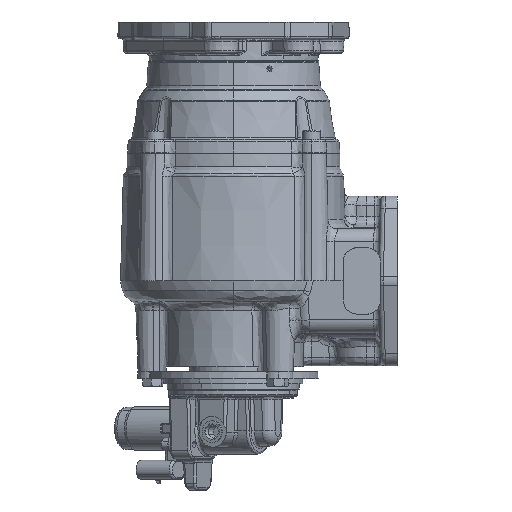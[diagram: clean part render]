
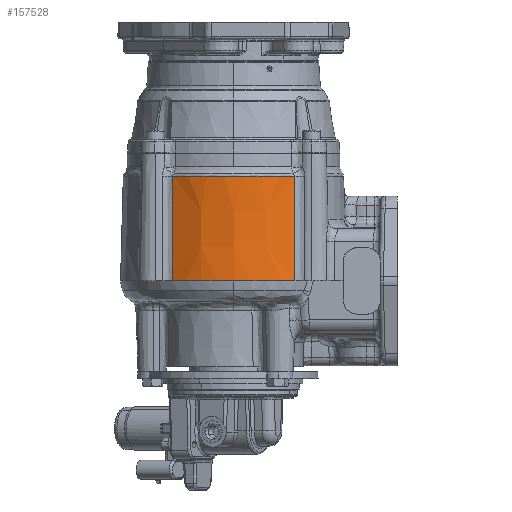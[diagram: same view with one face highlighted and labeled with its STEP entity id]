
A CAD part, left-side view. The second image highlights one B-rep face of the part: STEP entity #157528.
In plain terms, the highlighted conical face has half-angle 1.5 degrees and reference radius 76.073 mm.
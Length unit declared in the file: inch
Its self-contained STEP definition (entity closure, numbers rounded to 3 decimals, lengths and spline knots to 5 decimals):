
#1307 = CONICAL_SURFACE ( 'NONE', #92911, 2.995, 0.026 ) ;
#2171 = VERTEX_POINT ( 'NONE', #13450 ) ;
#2442 = CARTESIAN_POINT ( 'NONE',  ( -3.45445, 5.14477, 0.96049 ) ) ;
#2540 = CARTESIAN_POINT ( 'NONE',  ( -3.9635, 3.51989, 0. ) ) ;
#3430 = CARTESIAN_POINT ( 'NONE',  ( -3.48267, 5.14745, 0. ) ) ;
#6123 = ORIENTED_EDGE ( 'NONE', *, *, #29790, .F. ) ;
#8642 = CARTESIAN_POINT ( 'NONE',  ( -0.9685, 3.51989, 0. ) ) ;
#13450 = CARTESIAN_POINT ( 'NONE',  ( -3.48267, 1.89232, 0. ) ) ;
#14859 = VERTEX_POINT ( 'NONE', #116985 ) ;
#27615 = DIRECTION ( 'NONE',  ( 1., 0., 0. ) ) ;
#28605 = CIRCLE ( 'NONE', #175981, 2.92225 ) ;
#28880 = EDGE_CURVE ( 'NONE', #14859, #84225, #28605, .T. ) ;
#29790 = EDGE_CURVE ( 'NONE', #2171, #127530, #130158, .T. ) ;
#44545 = CARTESIAN_POINT ( 'NONE',  ( -3.48267, 5.14745, 0. ) ) ;
#54090 = EDGE_CURVE ( 'NONE', #2171, #14859, #75338, .T. ) ;
#54779 = DIRECTION ( 'NONE',  ( 0., 1., 0. ) ) ;
#55549 = B_SPLINE_CURVE_WITH_KNOTS ( 'NONE', 3,
 ( #95683, #142868, #2442, #3430 ),
 .UNSPECIFIED., .F., .F.,
 ( 4, 4 ),
 ( 0., 1. ),
 .UNSPECIFIED. ) ;
#55923 = CARTESIAN_POINT ( 'NONE',  ( -3.45445, 1.89501, 0.96047 ) ) ;
#56352 = DIRECTION ( 'NONE',  ( 0., 0., -1. ) ) ;
#58945 = CARTESIAN_POINT ( 'NONE',  ( -3.42697, 1.89734, 1.88656 ) ) ;
#66270 = CARTESIAN_POINT ( 'NONE',  ( -0.9685, 3.51989, 2.77827 ) ) ;
#67099 = FACE_OUTER_BOUND ( 'NONE', #179526, .T. ) ;
#71168 = ORIENTED_EDGE ( 'NONE', *, *, #54090, .T. ) ;
#75338 = B_SPLINE_CURVE_WITH_KNOTS ( 'NONE', 3,
 ( #196413, #55923, #58945, #118474 ),
 .UNSPECIFIED., .F., .F.,
 ( 4, 4 ),
 ( 0., 1. ),
 .UNSPECIFIED. ) ;
#76749 = CIRCLE ( 'NONE', #161786, 2.995 ) ;
#77326 = VERTEX_POINT ( 'NONE', #44545 ) ;
#84225 = VERTEX_POINT ( 'NONE', #197708 ) ;
#92911 = AXIS2_PLACEMENT_3D ( 'NONE', #8642, #132718, #54779 ) ;
#95683 = CARTESIAN_POINT ( 'NONE',  ( -3.4002, 5.14049, 2.77827 ) ) ;
#99070 = DIRECTION ( 'NONE',  ( 1., 0., 0. ) ) ;
#100099 = CARTESIAN_POINT ( 'NONE',  ( -0.9685, 3.51989, 0. ) ) ;
#116985 = CARTESIAN_POINT ( 'NONE',  ( -3.4002, 1.89928, 2.77827 ) ) ;
#118474 = CARTESIAN_POINT ( 'NONE',  ( -3.4002, 1.89928, 2.77827 ) ) ;
#123533 = ORIENTED_EDGE ( 'NONE', *, *, #197432, .F. ) ;
#127530 = VERTEX_POINT ( 'NONE', #2540 ) ;
#128829 = DIRECTION ( 'NONE',  ( 0., 0., -1. ) ) ;
#130158 = CIRCLE ( 'NONE', #143313, 2.995 ) ;
#132718 = DIRECTION ( 'NONE',  ( 0., 0., -1. ) ) ;
#142868 = CARTESIAN_POINT ( 'NONE',  ( -3.42696, 5.14244, 1.88658 ) ) ;
#143313 = AXIS2_PLACEMENT_3D ( 'NONE', #100099, #147255, #99070 ) ;
#145197 = DIRECTION ( 'NONE',  ( -1., 0., 0. ) ) ;
#147255 = DIRECTION ( 'NONE',  ( 0., 0., -1. ) ) ;
#157528 = ADVANCED_FACE ( 'NONE', ( #67099 ), #1307, .T. ) ;
#161786 = AXIS2_PLACEMENT_3D ( 'NONE', #168061, #56352, #27615 ) ;
#164297 = EDGE_CURVE ( 'NONE', #84225, #77326, #55549, .T. ) ;
#168061 = CARTESIAN_POINT ( 'NONE',  ( -0.9685, 3.51989, 0. ) ) ;
#170381 = ORIENTED_EDGE ( 'NONE', *, *, #28880, .T. ) ;
#175981 = AXIS2_PLACEMENT_3D ( 'NONE', #66270, #128829, #145197 ) ;
#179526 = EDGE_LOOP ( 'NONE', ( #6123, #71168, #170381, #183706, #123533 ) ) ;
#183706 = ORIENTED_EDGE ( 'NONE', *, *, #164297, .T. ) ;
#196413 = CARTESIAN_POINT ( 'NONE',  ( -3.48267, 1.89232, 0. ) ) ;
#197432 = EDGE_CURVE ( 'NONE', #127530, #77326, #76749, .T. ) ;
#197708 = CARTESIAN_POINT ( 'NONE',  ( -3.4002, 5.14049, 2.77827 ) ) ;
